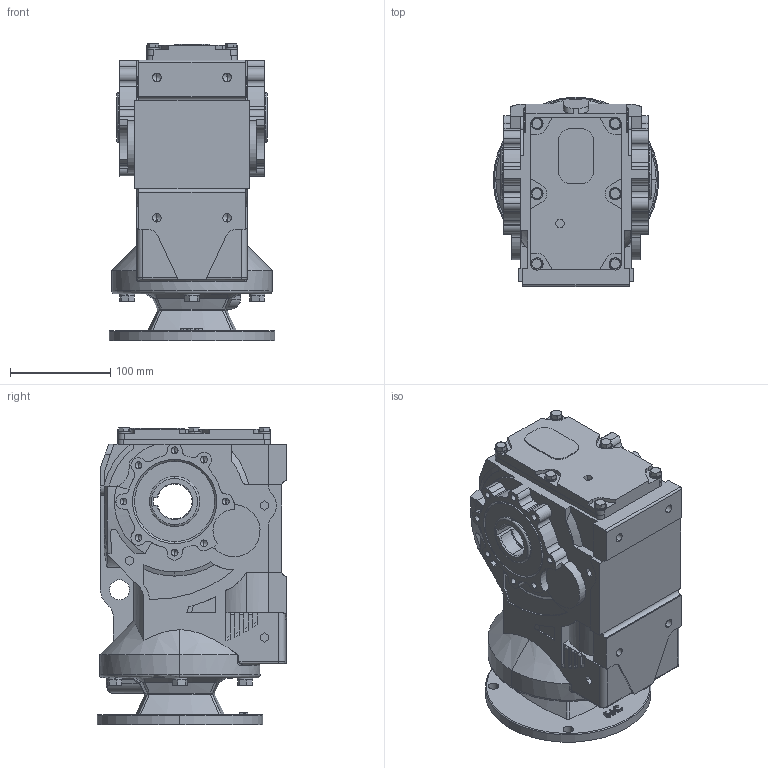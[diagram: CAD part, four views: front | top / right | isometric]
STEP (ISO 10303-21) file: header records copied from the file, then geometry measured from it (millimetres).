
FILE_DESCRIPTION (( 'STEP AP203' ), '1' );
FILE_NAME ('KAN47-56C.STEP', '2022-04-11T06:57:56', ( 'user1' ), ( '' ), 'SwSTEP 2.0', 'SolidWorks 2012', '' );
FILE_SCHEMA (( 'CONFIG_CONTROL_DESIGN' ));
Length unit declared in the file: millimetre
Products named in the file (1): KAN47-56C
Bounding box: 165.1 x 189.35 x 296.38 mm (x, y, z)
Volume: 5042927.5 mm3; surface area: 302183.3 mm2
Topology: 1 solids, 1 shells, 1149 faces, 3074 edges, 1961 vertices
Faces by surface type: plane 503, cylinder 401, cone 118, bspline 111, torus 16
Entity records: 41968 total; most frequent: CARTESIAN_POINT 13924, ORIENTED_EDGE 6064, DIRECTION 5542, EDGE_CURVE 3032, VERTEX_POINT 1961, AXIS2_PLACEMENT_3D 1950, LINE 1642, VECTOR 1642
